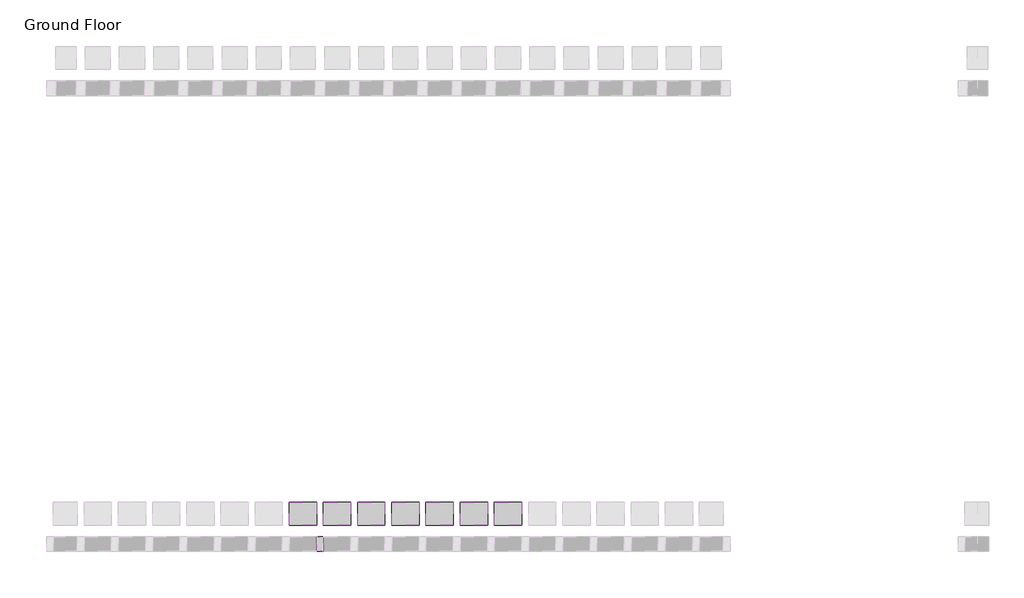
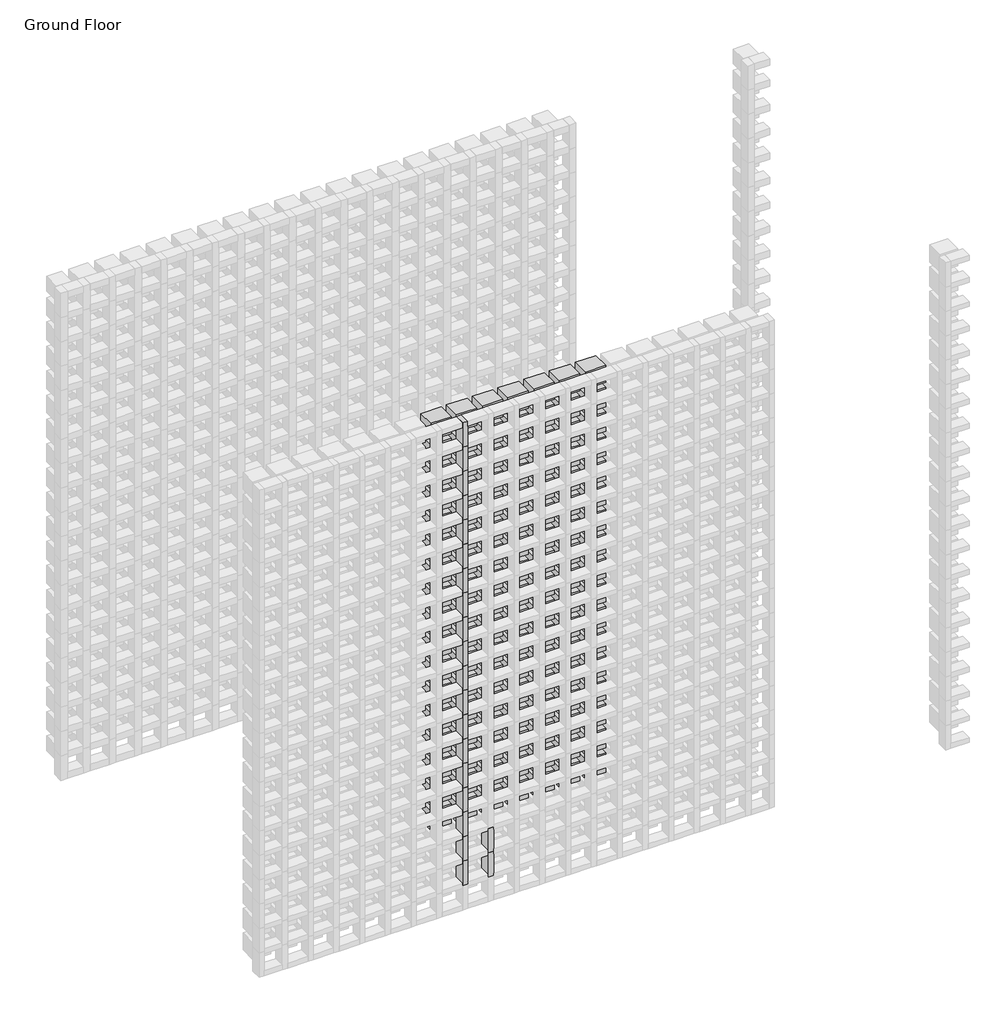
# One storey, part 77 of 350: 119 plates, 21 members.
"""IFC4 building model written with IfcOpenShell, lengths in millimetres."""

from ifc_helpers import new_model, si_unit, origin, place, context, project, spatial, transform, mapped, element, save
from components import rectangular_mullion_5b501421, empty_system_panel_empty_a57e421f, empty_system_panel_empty_fe50b430

model = new_model("IFC4")

# Units and contexts
model_context = context("Model", 3, world=origin())
ifc_project = project(units=[si_unit("LENGTHUNIT", "METRE", prefix="MILLI")], contexts=[model_context])

# Site, building, storey
site = spatial("IfcSite", under=ifc_project)
building = spatial("IfcBuilding", under=site)
storey = spatial("IfcBuildingStorey", under=building, Name="Ground Floor", Elevation=0.0)

# Members
placement = place(None, origin())
rectangular_mullion_shape = rectangular_mullion_5b501421(model_context)
element("IfcMember", 1, ObjectType="Rectangular Mullion : Batten_Timber_Modinex_Austratus_Grid_Fascia_30x65_Ironbark", at=placement, inside=storey, context=model_context, shape_type="MappedRepresentation", body=[
    mapped(rectangular_mullion_shape, transform((15116.4361642, 38968.2978302, 150.0), x_axis=(1.0, 0.0, 0.0), y_axis=(0.0, -1.0, 0.0), z_axis=(0.0, 0.0, -1.0))),
])
element("IfcMember", 2, ObjectType="Rectangular Mullion : Batten_Timber_Modinex_Austratus_Grid_Fascia_30x65_Ironbark", at=placement, inside=storey, context=model_context, shape_type="MappedRepresentation", body=[
    mapped(rectangular_mullion_shape, transform((15116.4361642, 38968.2978302, 300.0), x_axis=(1.0, 0.0, 0.0), y_axis=(0.0, -1.0, 0.0), z_axis=(0.0, 0.0, -1.0))),
])
element("IfcMember", 3, ObjectType="Rectangular Mullion : Batten_Timber_Modinex_Austratus_Grid_Fascia_30x65_Ironbark", at=placement, inside=storey, context=model_context, shape_type="MappedRepresentation", body=[
    mapped(rectangular_mullion_shape, transform((15116.4361642, 38968.2978302, 450.0), x_axis=(1.0, 0.0, 0.0), y_axis=(0.0, -1.0, 0.0), z_axis=(0.0, 0.0, -1.0))),
])
element("IfcMember", 4, ObjectType="Rectangular Mullion : Batten_Timber_Modinex_Austratus_Grid_Fascia_30x65_Ironbark", at=placement, inside=storey, context=model_context, shape_type="MappedRepresentation", body=[
    mapped(rectangular_mullion_shape, transform((15116.4361642, 38968.2978302, 600.0), x_axis=(1.0, 0.0, 0.0), y_axis=(0.0, -1.0, 0.0), z_axis=(0.0, 0.0, -1.0))),
])
element("IfcMember", 5, ObjectType="Rectangular Mullion : Batten_Timber_Modinex_Austratus_Grid_Fascia_30x65_Ironbark", at=placement, inside=storey, context=model_context, shape_type="MappedRepresentation", body=[
    mapped(rectangular_mullion_shape, transform((15116.4361642, 38968.2978302, 750.0), x_axis=(1.0, 0.0, 0.0), y_axis=(0.0, -1.0, 0.0), z_axis=(0.0, 0.0, -1.0))),
])
element("IfcMember", 6, ObjectType="Rectangular Mullion : Batten_Timber_Modinex_Austratus_Grid_Fascia_30x65_Ironbark", at=placement, inside=storey, context=model_context, shape_type="MappedRepresentation", body=[
    mapped(rectangular_mullion_shape, transform((15116.4361642, 38968.2978302, 900.0), x_axis=(1.0, 0.0, 0.0), y_axis=(0.0, -1.0, 0.0), z_axis=(0.0, 0.0, -1.0))),
])
element("IfcMember", 7, ObjectType="Rectangular Mullion : Batten_Timber_Modinex_Austratus_Grid_Fascia_30x65_Ironbark", at=placement, inside=storey, context=model_context, shape_type="MappedRepresentation", body=[
    mapped(rectangular_mullion_shape, transform((15116.4361642, 38968.2978302, 1050.0), x_axis=(1.0, 0.0, 0.0), y_axis=(0.0, -1.0, 0.0), z_axis=(0.0, 0.0, -1.0))),
])
element("IfcMember", 8, ObjectType="Rectangular Mullion : Batten_Timber_Modinex_Austratus_Grid_Fascia_30x65_Ironbark", at=placement, inside=storey, context=model_context, shape_type="MappedRepresentation", body=[
    mapped(rectangular_mullion_shape, transform((15116.4361642, 38968.2978302, 1200.0), x_axis=(1.0, 0.0, 0.0), y_axis=(0.0, -1.0, 0.0), z_axis=(0.0, 0.0, -1.0))),
])
element("IfcMember", 9, ObjectType="Rectangular Mullion : Batten_Timber_Modinex_Austratus_Grid_Fascia_30x65_Ironbark", at=placement, inside=storey, context=model_context, shape_type="MappedRepresentation", body=[
    mapped(rectangular_mullion_shape, transform((15116.4361642, 38968.2978302, 1350.0), x_axis=(1.0, 0.0, 0.0), y_axis=(0.0, -1.0, 0.0), z_axis=(0.0, 0.0, -1.0))),
])
element("IfcMember", 10, ObjectType="Rectangular Mullion : Batten_Timber_Modinex_Austratus_Grid_Fascia_30x65_Ironbark", at=placement, inside=storey, context=model_context, shape_type="MappedRepresentation", body=[
    mapped(rectangular_mullion_shape, transform((15116.4361642, 38968.2978302, 1500.0), x_axis=(1.0, 0.0, 0.0), y_axis=(0.0, -1.0, 0.0), z_axis=(0.0, 0.0, -1.0))),
])
element("IfcMember", 11, ObjectType="Rectangular Mullion : Batten_Timber_Modinex_Austratus_Grid_Fascia_30x65_Ironbark", at=placement, inside=storey, context=model_context, shape_type="MappedRepresentation", body=[
    mapped(rectangular_mullion_shape, transform((15116.4361642, 38968.2978302, 1650.0), x_axis=(1.0, 0.0, 0.0), y_axis=(0.0, -1.0, 0.0), z_axis=(0.0, 0.0, -1.0))),
])
element("IfcMember", 12, ObjectType="Rectangular Mullion : Batten_Timber_Modinex_Austratus_Grid_Fascia_30x65_Ironbark", at=placement, inside=storey, context=model_context, shape_type="MappedRepresentation", body=[
    mapped(rectangular_mullion_shape, transform((15116.4361642, 38968.2978302, 1800.0), x_axis=(1.0, 0.0, 0.0), y_axis=(0.0, -1.0, 0.0), z_axis=(0.0, 0.0, -1.0))),
])
element("IfcMember", 13, ObjectType="Rectangular Mullion : Batten_Timber_Modinex_Austratus_Grid_Fascia_30x65_Ironbark", at=placement, inside=storey, context=model_context, shape_type="MappedRepresentation", body=[
    mapped(rectangular_mullion_shape, transform((15116.4361642, 38968.2978302, 1950.0), x_axis=(1.0, 0.0, 0.0), y_axis=(0.0, -1.0, 0.0), z_axis=(0.0, 0.0, -1.0))),
])
element("IfcMember", 14, ObjectType="Rectangular Mullion : Batten_Timber_Modinex_Austratus_Grid_Fascia_30x65_Ironbark", at=placement, inside=storey, context=model_context, shape_type="MappedRepresentation", body=[
    mapped(rectangular_mullion_shape, transform((15116.4361642, 38968.2978302, 2100.0), x_axis=(1.0, 0.0, 0.0), y_axis=(0.0, -1.0, 0.0), z_axis=(0.0, 0.0, -1.0))),
])
element("IfcMember", 15, ObjectType="Rectangular Mullion : Batten_Timber_Modinex_Austratus_Grid_Fascia_30x65_Ironbark", at=placement, inside=storey, context=model_context, shape_type="MappedRepresentation", body=[
    mapped(rectangular_mullion_shape, transform((15116.4361642, 38968.2978302, 2250.0), x_axis=(1.0, 0.0, 0.0), y_axis=(0.0, -1.0, 0.0), z_axis=(0.0, 0.0, -1.0))),
])
element("IfcMember", 16, ObjectType="Rectangular Mullion : Batten_Timber_Modinex_Austratus_Grid_Fascia_30x65_Ironbark", at=placement, inside=storey, context=model_context, shape_type="MappedRepresentation", body=[
    mapped(rectangular_mullion_shape, transform((15116.4361642, 38968.2978302, 2400.0), x_axis=(1.0, 0.0, 0.0), y_axis=(0.0, -1.0, 0.0), z_axis=(0.0, 0.0, -1.0))),
])
element("IfcMember", 17, ObjectType="Rectangular Mullion : Batten_Timber_Modinex_Austratus_Grid_Fascia_30x65_Ironbark", at=placement, inside=storey, context=model_context, shape_type="MappedRepresentation", body=[
    mapped(rectangular_mullion_shape, transform((15116.4361642, 38968.2978302, 2550.0), x_axis=(1.0, 0.0, 0.0), y_axis=(0.0, -1.0, 0.0), z_axis=(0.0, 0.0, -1.0))),
])
element("IfcMember", 18, ObjectType="Rectangular Mullion : Batten_Timber_Modinex_Austratus_Grid_Fascia_30x65_Ironbark", at=placement, inside=storey, context=model_context, shape_type="MappedRepresentation", body=[
    mapped(rectangular_mullion_shape, transform((15116.4361642, 38968.2978302, 2700.0), x_axis=(1.0, 0.0, 0.0), y_axis=(0.0, -1.0, 0.0), z_axis=(0.0, 0.0, -1.0))),
])
element("IfcMember", 19, ObjectType="Rectangular Mullion : Batten_Timber_Modinex_Austratus_Grid_Fascia_30x65_Ironbark", at=placement, inside=storey, context=model_context, shape_type="MappedRepresentation", body=[
    mapped(rectangular_mullion_shape, transform((15266.4361642, 38968.2978302, 150.0), x_axis=(1.0, 0.0, 0.0), y_axis=(0.0, -1.0, 0.0), z_axis=(0.0, 0.0, -1.0))),
])
element("IfcMember", 20, ObjectType="Rectangular Mullion : Batten_Timber_Modinex_Austratus_Grid_Fascia_30x65_Ironbark", at=placement, inside=storey, context=model_context, shape_type="MappedRepresentation", body=[
    mapped(rectangular_mullion_shape, transform((15266.4361642, 38968.2978302, 300.0), x_axis=(1.0, 0.0, 0.0), y_axis=(0.0, -1.0, 0.0), z_axis=(0.0, 0.0, -1.0))),
])
element("IfcMember", 21, ObjectType="Rectangular Mullion : Batten_Timber_Modinex_Austratus_Grid_Fascia_30x65_Ironbark", at=placement, inside=storey, context=model_context, shape_type="MappedRepresentation", body=[
    mapped(rectangular_mullion_shape, transform((15116.4361642, 38968.2978302, 2850.0), x_axis=(1.0, 0.0, 0.0), y_axis=(0.0, -1.0, 0.0), z_axis=(0.0, 0.0, -1.0))),
])

# Plates
empty_system_panel_empty_shape = empty_system_panel_empty_a57e421f(model_context)
element("IfcPlate", 22, ObjectType="Empty System Panel : Empty", at=placement, inside=storey, context=model_context, shape_type="MappedRepresentation", body=[
    mapped(empty_system_panel_empty_shape, transform((15041.4361642, 38968.2978302, 465.0), x_axis=(1.0, 0.0, 0.0), y_axis=(0.0, 1.0, 0.0), z_axis=(0.0, 0.0, 1.0))),
])
element("IfcPlate", 23, ObjectType="Empty System Panel : Empty", at=placement, inside=storey, context=model_context, shape_type="MappedRepresentation", body=[
    mapped(empty_system_panel_empty_shape, transform((15191.4361642, 38968.2978302, 465.0), x_axis=(1.0, 0.0, 0.0), y_axis=(0.0, 1.0, 0.0), z_axis=(0.0, 0.0, 1.0))),
])
element("IfcPlate", 24, ObjectType="Empty System Panel : Empty", at=placement, inside=storey, context=model_context, shape_type="MappedRepresentation", body=[
    mapped(empty_system_panel_empty_shape, transform((15341.4361642, 38968.2978302, 465.0), x_axis=(1.0, 0.0, 0.0), y_axis=(0.0, 1.0, 0.0), z_axis=(0.0, 0.0, 1.0))),
])
element("IfcPlate", 25, ObjectType="Empty System Panel : Empty", at=placement, inside=storey, context=model_context, shape_type="MappedRepresentation", body=[
    mapped(empty_system_panel_empty_shape, transform((15491.4361642, 38968.2978302, 465.0), x_axis=(1.0, 0.0, 0.0), y_axis=(0.0, 1.0, 0.0), z_axis=(0.0, 0.0, 1.0))),
])
element("IfcPlate", 26, ObjectType="Empty System Panel : Empty", at=placement, inside=storey, context=model_context, shape_type="MappedRepresentation", body=[
    mapped(empty_system_panel_empty_shape, transform((15641.4361642, 38968.2978302, 465.0), x_axis=(1.0, 0.0, 0.0), y_axis=(0.0, 1.0, 0.0), z_axis=(0.0, 0.0, 1.0))),
])
element("IfcPlate", 27, ObjectType="Empty System Panel : Empty", at=placement, inside=storey, context=model_context, shape_type="MappedRepresentation", body=[
    mapped(empty_system_panel_empty_shape, transform((15791.4361642, 38968.2978302, 465.0), x_axis=(1.0, 0.0, 0.0), y_axis=(0.0, 1.0, 0.0), z_axis=(0.0, 0.0, 1.0))),
])
element("IfcPlate", 28, ObjectType="Empty System Panel : Empty", at=placement, inside=storey, context=model_context, shape_type="MappedRepresentation", body=[
    mapped(empty_system_panel_empty_shape, transform((15941.4361642, 38968.2978302, 465.0), x_axis=(1.0, 0.0, 0.0), y_axis=(0.0, 1.0, 0.0), z_axis=(0.0, 0.0, 1.0))),
])
element("IfcPlate", 29, ObjectType="Empty System Panel : Empty", at=placement, inside=storey, context=model_context, shape_type="MappedRepresentation", body=[
    mapped(empty_system_panel_empty_shape, transform((15041.4361642, 38968.2978302, 615.0), x_axis=(1.0, 0.0, 0.0), y_axis=(0.0, 1.0, 0.0), z_axis=(0.0, 0.0, 1.0))),
])
element("IfcPlate", 30, ObjectType="Empty System Panel : Empty", at=placement, inside=storey, context=model_context, shape_type="MappedRepresentation", body=[
    mapped(empty_system_panel_empty_shape, transform((15191.4361642, 38968.2978302, 615.0), x_axis=(1.0, 0.0, 0.0), y_axis=(0.0, 1.0, 0.0), z_axis=(0.0, 0.0, 1.0))),
])
element("IfcPlate", 31, ObjectType="Empty System Panel : Empty", at=placement, inside=storey, context=model_context, shape_type="MappedRepresentation", body=[
    mapped(empty_system_panel_empty_shape, transform((15341.4361642, 38968.2978302, 615.0), x_axis=(1.0, 0.0, 0.0), y_axis=(0.0, 1.0, 0.0), z_axis=(0.0, 0.0, 1.0))),
])
element("IfcPlate", 32, ObjectType="Empty System Panel : Empty", at=placement, inside=storey, context=model_context, shape_type="MappedRepresentation", body=[
    mapped(empty_system_panel_empty_shape, transform((15491.4361642, 38968.2978302, 615.0), x_axis=(1.0, 0.0, 0.0), y_axis=(0.0, 1.0, 0.0), z_axis=(0.0, 0.0, 1.0))),
])
element("IfcPlate", 33, ObjectType="Empty System Panel : Empty", at=placement, inside=storey, context=model_context, shape_type="MappedRepresentation", body=[
    mapped(empty_system_panel_empty_shape, transform((15641.4361642, 38968.2978302, 615.0), x_axis=(1.0, 0.0, 0.0), y_axis=(0.0, 1.0, 0.0), z_axis=(0.0, 0.0, 1.0))),
])
element("IfcPlate", 34, ObjectType="Empty System Panel : Empty", at=placement, inside=storey, context=model_context, shape_type="MappedRepresentation", body=[
    mapped(empty_system_panel_empty_shape, transform((15791.4361642, 38968.2978302, 615.0), x_axis=(1.0, 0.0, 0.0), y_axis=(0.0, 1.0, 0.0), z_axis=(0.0, 0.0, 1.0))),
])
element("IfcPlate", 35, ObjectType="Empty System Panel : Empty", at=placement, inside=storey, context=model_context, shape_type="MappedRepresentation", body=[
    mapped(empty_system_panel_empty_shape, transform((15941.4361642, 38968.2978302, 615.0), x_axis=(1.0, 0.0, 0.0), y_axis=(0.0, 1.0, 0.0), z_axis=(0.0, 0.0, 1.0))),
])
element("IfcPlate", 36, ObjectType="Empty System Panel : Empty", at=placement, inside=storey, context=model_context, shape_type="MappedRepresentation", body=[
    mapped(empty_system_panel_empty_shape, transform((15041.4361642, 38968.2978302, 765.0), x_axis=(1.0, 0.0, 0.0), y_axis=(0.0, 1.0, 0.0), z_axis=(0.0, 0.0, 1.0))),
])
element("IfcPlate", 37, ObjectType="Empty System Panel : Empty", at=placement, inside=storey, context=model_context, shape_type="MappedRepresentation", body=[
    mapped(empty_system_panel_empty_shape, transform((15191.4361642, 38968.2978302, 765.0), x_axis=(1.0, 0.0, 0.0), y_axis=(0.0, 1.0, 0.0), z_axis=(0.0, 0.0, 1.0))),
])
element("IfcPlate", 38, ObjectType="Empty System Panel : Empty", at=placement, inside=storey, context=model_context, shape_type="MappedRepresentation", body=[
    mapped(empty_system_panel_empty_shape, transform((15341.4361642, 38968.2978302, 765.0), x_axis=(1.0, 0.0, 0.0), y_axis=(0.0, 1.0, 0.0), z_axis=(0.0, 0.0, 1.0))),
])
element("IfcPlate", 39, ObjectType="Empty System Panel : Empty", at=placement, inside=storey, context=model_context, shape_type="MappedRepresentation", body=[
    mapped(empty_system_panel_empty_shape, transform((15491.4361642, 38968.2978302, 765.0), x_axis=(1.0, 0.0, 0.0), y_axis=(0.0, 1.0, 0.0), z_axis=(0.0, 0.0, 1.0))),
])
element("IfcPlate", 40, ObjectType="Empty System Panel : Empty", at=placement, inside=storey, context=model_context, shape_type="MappedRepresentation", body=[
    mapped(empty_system_panel_empty_shape, transform((15641.4361642, 38968.2978302, 765.0), x_axis=(1.0, 0.0, 0.0), y_axis=(0.0, 1.0, 0.0), z_axis=(0.0, 0.0, 1.0))),
])
element("IfcPlate", 41, ObjectType="Empty System Panel : Empty", at=placement, inside=storey, context=model_context, shape_type="MappedRepresentation", body=[
    mapped(empty_system_panel_empty_shape, transform((15791.4361642, 38968.2978302, 765.0), x_axis=(1.0, 0.0, 0.0), y_axis=(0.0, 1.0, 0.0), z_axis=(0.0, 0.0, 1.0))),
])
element("IfcPlate", 42, ObjectType="Empty System Panel : Empty", at=placement, inside=storey, context=model_context, shape_type="MappedRepresentation", body=[
    mapped(empty_system_panel_empty_shape, transform((15941.4361642, 38968.2978302, 765.0), x_axis=(1.0, 0.0, 0.0), y_axis=(0.0, 1.0, 0.0), z_axis=(0.0, 0.0, 1.0))),
])
element("IfcPlate", 43, ObjectType="Empty System Panel : Empty", at=placement, inside=storey, context=model_context, shape_type="MappedRepresentation", body=[
    mapped(empty_system_panel_empty_shape, transform((15041.4361642, 38968.2978302, 915.0), x_axis=(1.0, 0.0, 0.0), y_axis=(0.0, 1.0, 0.0), z_axis=(0.0, 0.0, 1.0))),
])
element("IfcPlate", 44, ObjectType="Empty System Panel : Empty", at=placement, inside=storey, context=model_context, shape_type="MappedRepresentation", body=[
    mapped(empty_system_panel_empty_shape, transform((15191.4361642, 38968.2978302, 915.0), x_axis=(1.0, 0.0, 0.0), y_axis=(0.0, 1.0, 0.0), z_axis=(0.0, 0.0, 1.0))),
])
element("IfcPlate", 45, ObjectType="Empty System Panel : Empty", at=placement, inside=storey, context=model_context, shape_type="MappedRepresentation", body=[
    mapped(empty_system_panel_empty_shape, transform((15341.4361642, 38968.2978302, 915.0), x_axis=(1.0, 0.0, 0.0), y_axis=(0.0, 1.0, 0.0), z_axis=(0.0, 0.0, 1.0))),
])
element("IfcPlate", 46, ObjectType="Empty System Panel : Empty", at=placement, inside=storey, context=model_context, shape_type="MappedRepresentation", body=[
    mapped(empty_system_panel_empty_shape, transform((15491.4361642, 38968.2978302, 915.0), x_axis=(1.0, 0.0, 0.0), y_axis=(0.0, 1.0, 0.0), z_axis=(0.0, 0.0, 1.0))),
])
element("IfcPlate", 47, ObjectType="Empty System Panel : Empty", at=placement, inside=storey, context=model_context, shape_type="MappedRepresentation", body=[
    mapped(empty_system_panel_empty_shape, transform((15641.4361642, 38968.2978302, 915.0), x_axis=(1.0, 0.0, 0.0), y_axis=(0.0, 1.0, 0.0), z_axis=(0.0, 0.0, 1.0))),
])
element("IfcPlate", 48, ObjectType="Empty System Panel : Empty", at=placement, inside=storey, context=model_context, shape_type="MappedRepresentation", body=[
    mapped(empty_system_panel_empty_shape, transform((15791.4361642, 38968.2978302, 915.0), x_axis=(1.0, 0.0, 0.0), y_axis=(0.0, 1.0, 0.0), z_axis=(0.0, 0.0, 1.0))),
])
element("IfcPlate", 49, ObjectType="Empty System Panel : Empty", at=placement, inside=storey, context=model_context, shape_type="MappedRepresentation", body=[
    mapped(empty_system_panel_empty_shape, transform((15941.4361642, 38968.2978302, 915.0), x_axis=(1.0, 0.0, 0.0), y_axis=(0.0, 1.0, 0.0), z_axis=(0.0, 0.0, 1.0))),
])
element("IfcPlate", 50, ObjectType="Empty System Panel : Empty", at=placement, inside=storey, context=model_context, shape_type="MappedRepresentation", body=[
    mapped(empty_system_panel_empty_shape, transform((15041.4361642, 38968.2978302, 1065.0), x_axis=(1.0, 0.0, 0.0), y_axis=(0.0, 1.0, 0.0), z_axis=(0.0, 0.0, 1.0))),
])
element("IfcPlate", 51, ObjectType="Empty System Panel : Empty", at=placement, inside=storey, context=model_context, shape_type="MappedRepresentation", body=[
    mapped(empty_system_panel_empty_shape, transform((15191.4361642, 38968.2978302, 1065.0), x_axis=(1.0, 0.0, 0.0), y_axis=(0.0, 1.0, 0.0), z_axis=(0.0, 0.0, 1.0))),
])
element("IfcPlate", 52, ObjectType="Empty System Panel : Empty", at=placement, inside=storey, context=model_context, shape_type="MappedRepresentation", body=[
    mapped(empty_system_panel_empty_shape, transform((15341.4361642, 38968.2978302, 1065.0), x_axis=(1.0, 0.0, 0.0), y_axis=(0.0, 1.0, 0.0), z_axis=(0.0, 0.0, 1.0))),
])
element("IfcPlate", 53, ObjectType="Empty System Panel : Empty", at=placement, inside=storey, context=model_context, shape_type="MappedRepresentation", body=[
    mapped(empty_system_panel_empty_shape, transform((15491.4361642, 38968.2978302, 1065.0), x_axis=(1.0, 0.0, 0.0), y_axis=(0.0, 1.0, 0.0), z_axis=(0.0, 0.0, 1.0))),
])
element("IfcPlate", 54, ObjectType="Empty System Panel : Empty", at=placement, inside=storey, context=model_context, shape_type="MappedRepresentation", body=[
    mapped(empty_system_panel_empty_shape, transform((15641.4361642, 38968.2978302, 1065.0), x_axis=(1.0, 0.0, 0.0), y_axis=(0.0, 1.0, 0.0), z_axis=(0.0, 0.0, 1.0))),
])
element("IfcPlate", 55, ObjectType="Empty System Panel : Empty", at=placement, inside=storey, context=model_context, shape_type="MappedRepresentation", body=[
    mapped(empty_system_panel_empty_shape, transform((15791.4361642, 38968.2978302, 1065.0), x_axis=(1.0, 0.0, 0.0), y_axis=(0.0, 1.0, 0.0), z_axis=(0.0, 0.0, 1.0))),
])
element("IfcPlate", 56, ObjectType="Empty System Panel : Empty", at=placement, inside=storey, context=model_context, shape_type="MappedRepresentation", body=[
    mapped(empty_system_panel_empty_shape, transform((15941.4361642, 38968.2978302, 1065.0), x_axis=(1.0, 0.0, 0.0), y_axis=(0.0, 1.0, 0.0), z_axis=(0.0, 0.0, 1.0))),
])
element("IfcPlate", 57, ObjectType="Empty System Panel : Empty", at=placement, inside=storey, context=model_context, shape_type="MappedRepresentation", body=[
    mapped(empty_system_panel_empty_shape, transform((15041.4361642, 38968.2978302, 1215.0), x_axis=(1.0, 0.0, 0.0), y_axis=(0.0, 1.0, 0.0), z_axis=(0.0, 0.0, 1.0))),
])
element("IfcPlate", 58, ObjectType="Empty System Panel : Empty", at=placement, inside=storey, context=model_context, shape_type="MappedRepresentation", body=[
    mapped(empty_system_panel_empty_shape, transform((15191.4361642, 38968.2978302, 1215.0), x_axis=(1.0, 0.0, 0.0), y_axis=(0.0, 1.0, 0.0), z_axis=(0.0, 0.0, 1.0))),
])
element("IfcPlate", 59, ObjectType="Empty System Panel : Empty", at=placement, inside=storey, context=model_context, shape_type="MappedRepresentation", body=[
    mapped(empty_system_panel_empty_shape, transform((15341.4361642, 38968.2978302, 1215.0), x_axis=(1.0, 0.0, 0.0), y_axis=(0.0, 1.0, 0.0), z_axis=(0.0, 0.0, 1.0))),
])
element("IfcPlate", 60, ObjectType="Empty System Panel : Empty", at=placement, inside=storey, context=model_context, shape_type="MappedRepresentation", body=[
    mapped(empty_system_panel_empty_shape, transform((15491.4361642, 38968.2978302, 1215.0), x_axis=(1.0, 0.0, 0.0), y_axis=(0.0, 1.0, 0.0), z_axis=(0.0, 0.0, 1.0))),
])
element("IfcPlate", 61, ObjectType="Empty System Panel : Empty", at=placement, inside=storey, context=model_context, shape_type="MappedRepresentation", body=[
    mapped(empty_system_panel_empty_shape, transform((15641.4361642, 38968.2978302, 1215.0), x_axis=(1.0, 0.0, 0.0), y_axis=(0.0, 1.0, 0.0), z_axis=(0.0, 0.0, 1.0))),
])
element("IfcPlate", 62, ObjectType="Empty System Panel : Empty", at=placement, inside=storey, context=model_context, shape_type="MappedRepresentation", body=[
    mapped(empty_system_panel_empty_shape, transform((15791.4361642, 38968.2978302, 1215.0), x_axis=(1.0, 0.0, 0.0), y_axis=(0.0, 1.0, 0.0), z_axis=(0.0, 0.0, 1.0))),
])
element("IfcPlate", 63, ObjectType="Empty System Panel : Empty", at=placement, inside=storey, context=model_context, shape_type="MappedRepresentation", body=[
    mapped(empty_system_panel_empty_shape, transform((15941.4361642, 38968.2978302, 1215.0), x_axis=(1.0, 0.0, 0.0), y_axis=(0.0, 1.0, 0.0), z_axis=(0.0, 0.0, 1.0))),
])
element("IfcPlate", 64, ObjectType="Empty System Panel : Empty", at=placement, inside=storey, context=model_context, shape_type="MappedRepresentation", body=[
    mapped(empty_system_panel_empty_shape, transform((15041.4361642, 38968.2978302, 1365.0), x_axis=(1.0, 0.0, 0.0), y_axis=(0.0, 1.0, 0.0), z_axis=(0.0, 0.0, 1.0))),
])
element("IfcPlate", 65, ObjectType="Empty System Panel : Empty", at=placement, inside=storey, context=model_context, shape_type="MappedRepresentation", body=[
    mapped(empty_system_panel_empty_shape, transform((15191.4361642, 38968.2978302, 1365.0), x_axis=(1.0, 0.0, 0.0), y_axis=(0.0, 1.0, 0.0), z_axis=(0.0, 0.0, 1.0))),
])
element("IfcPlate", 66, ObjectType="Empty System Panel : Empty", at=placement, inside=storey, context=model_context, shape_type="MappedRepresentation", body=[
    mapped(empty_system_panel_empty_shape, transform((15341.4361642, 38968.2978302, 1365.0), x_axis=(1.0, 0.0, 0.0), y_axis=(0.0, 1.0, 0.0), z_axis=(0.0, 0.0, 1.0))),
])
element("IfcPlate", 67, ObjectType="Empty System Panel : Empty", at=placement, inside=storey, context=model_context, shape_type="MappedRepresentation", body=[
    mapped(empty_system_panel_empty_shape, transform((15491.4361642, 38968.2978302, 1365.0), x_axis=(1.0, 0.0, 0.0), y_axis=(0.0, 1.0, 0.0), z_axis=(0.0, 0.0, 1.0))),
])
element("IfcPlate", 68, ObjectType="Empty System Panel : Empty", at=placement, inside=storey, context=model_context, shape_type="MappedRepresentation", body=[
    mapped(empty_system_panel_empty_shape, transform((15641.4361642, 38968.2978302, 1365.0), x_axis=(1.0, 0.0, 0.0), y_axis=(0.0, 1.0, 0.0), z_axis=(0.0, 0.0, 1.0))),
])
element("IfcPlate", 69, ObjectType="Empty System Panel : Empty", at=placement, inside=storey, context=model_context, shape_type="MappedRepresentation", body=[
    mapped(empty_system_panel_empty_shape, transform((15791.4361642, 38968.2978302, 1365.0), x_axis=(1.0, 0.0, 0.0), y_axis=(0.0, 1.0, 0.0), z_axis=(0.0, 0.0, 1.0))),
])
element("IfcPlate", 70, ObjectType="Empty System Panel : Empty", at=placement, inside=storey, context=model_context, shape_type="MappedRepresentation", body=[
    mapped(empty_system_panel_empty_shape, transform((15941.4361642, 38968.2978302, 1365.0), x_axis=(1.0, 0.0, 0.0), y_axis=(0.0, 1.0, 0.0), z_axis=(0.0, 0.0, 1.0))),
])
element("IfcPlate", 71, ObjectType="Empty System Panel : Empty", at=placement, inside=storey, context=model_context, shape_type="MappedRepresentation", body=[
    mapped(empty_system_panel_empty_shape, transform((15041.4361642, 38968.2978302, 1515.0), x_axis=(1.0, 0.0, 0.0), y_axis=(0.0, 1.0, 0.0), z_axis=(0.0, 0.0, 1.0))),
])
element("IfcPlate", 72, ObjectType="Empty System Panel : Empty", at=placement, inside=storey, context=model_context, shape_type="MappedRepresentation", body=[
    mapped(empty_system_panel_empty_shape, transform((15191.4361642, 38968.2978302, 1515.0), x_axis=(1.0, 0.0, 0.0), y_axis=(0.0, 1.0, 0.0), z_axis=(0.0, 0.0, 1.0))),
])
element("IfcPlate", 73, ObjectType="Empty System Panel : Empty", at=placement, inside=storey, context=model_context, shape_type="MappedRepresentation", body=[
    mapped(empty_system_panel_empty_shape, transform((15341.4361642, 38968.2978302, 1515.0), x_axis=(1.0, 0.0, 0.0), y_axis=(0.0, 1.0, 0.0), z_axis=(0.0, 0.0, 1.0))),
])
element("IfcPlate", 74, ObjectType="Empty System Panel : Empty", at=placement, inside=storey, context=model_context, shape_type="MappedRepresentation", body=[
    mapped(empty_system_panel_empty_shape, transform((15491.4361642, 38968.2978302, 1515.0), x_axis=(1.0, 0.0, 0.0), y_axis=(0.0, 1.0, 0.0), z_axis=(0.0, 0.0, 1.0))),
])
element("IfcPlate", 75, ObjectType="Empty System Panel : Empty", at=placement, inside=storey, context=model_context, shape_type="MappedRepresentation", body=[
    mapped(empty_system_panel_empty_shape, transform((15641.4361642, 38968.2978302, 1515.0), x_axis=(1.0, 0.0, 0.0), y_axis=(0.0, 1.0, 0.0), z_axis=(0.0, 0.0, 1.0))),
])
element("IfcPlate", 76, ObjectType="Empty System Panel : Empty", at=placement, inside=storey, context=model_context, shape_type="MappedRepresentation", body=[
    mapped(empty_system_panel_empty_shape, transform((15791.4361642, 38968.2978302, 1515.0), x_axis=(1.0, 0.0, 0.0), y_axis=(0.0, 1.0, 0.0), z_axis=(0.0, 0.0, 1.0))),
])
element("IfcPlate", 77, ObjectType="Empty System Panel : Empty", at=placement, inside=storey, context=model_context, shape_type="MappedRepresentation", body=[
    mapped(empty_system_panel_empty_shape, transform((15941.4361642, 38968.2978302, 1515.0), x_axis=(1.0, 0.0, 0.0), y_axis=(0.0, 1.0, 0.0), z_axis=(0.0, 0.0, 1.0))),
])
element("IfcPlate", 78, ObjectType="Empty System Panel : Empty", at=placement, inside=storey, context=model_context, shape_type="MappedRepresentation", body=[
    mapped(empty_system_panel_empty_shape, transform((15041.4361642, 38968.2978302, 1665.0), x_axis=(1.0, 0.0, 0.0), y_axis=(0.0, 1.0, 0.0), z_axis=(0.0, 0.0, 1.0))),
])
element("IfcPlate", 79, ObjectType="Empty System Panel : Empty", at=placement, inside=storey, context=model_context, shape_type="MappedRepresentation", body=[
    mapped(empty_system_panel_empty_shape, transform((15191.4361642, 38968.2978302, 1665.0), x_axis=(1.0, 0.0, 0.0), y_axis=(0.0, 1.0, 0.0), z_axis=(0.0, 0.0, 1.0))),
])
element("IfcPlate", 80, ObjectType="Empty System Panel : Empty", at=placement, inside=storey, context=model_context, shape_type="MappedRepresentation", body=[
    mapped(empty_system_panel_empty_shape, transform((15341.4361642, 38968.2978302, 1665.0), x_axis=(1.0, 0.0, 0.0), y_axis=(0.0, 1.0, 0.0), z_axis=(0.0, 0.0, 1.0))),
])
element("IfcPlate", 81, ObjectType="Empty System Panel : Empty", at=placement, inside=storey, context=model_context, shape_type="MappedRepresentation", body=[
    mapped(empty_system_panel_empty_shape, transform((15491.4361642, 38968.2978302, 1665.0), x_axis=(1.0, 0.0, 0.0), y_axis=(0.0, 1.0, 0.0), z_axis=(0.0, 0.0, 1.0))),
])
element("IfcPlate", 82, ObjectType="Empty System Panel : Empty", at=placement, inside=storey, context=model_context, shape_type="MappedRepresentation", body=[
    mapped(empty_system_panel_empty_shape, transform((15641.4361642, 38968.2978302, 1665.0), x_axis=(1.0, 0.0, 0.0), y_axis=(0.0, 1.0, 0.0), z_axis=(0.0, 0.0, 1.0))),
])
element("IfcPlate", 83, ObjectType="Empty System Panel : Empty", at=placement, inside=storey, context=model_context, shape_type="MappedRepresentation", body=[
    mapped(empty_system_panel_empty_shape, transform((15791.4361642, 38968.2978302, 1665.0), x_axis=(1.0, 0.0, 0.0), y_axis=(0.0, 1.0, 0.0), z_axis=(0.0, 0.0, 1.0))),
])
element("IfcPlate", 84, ObjectType="Empty System Panel : Empty", at=placement, inside=storey, context=model_context, shape_type="MappedRepresentation", body=[
    mapped(empty_system_panel_empty_shape, transform((15941.4361642, 38968.2978302, 1665.0), x_axis=(1.0, 0.0, 0.0), y_axis=(0.0, 1.0, 0.0), z_axis=(0.0, 0.0, 1.0))),
])
element("IfcPlate", 85, ObjectType="Empty System Panel : Empty", at=placement, inside=storey, context=model_context, shape_type="MappedRepresentation", body=[
    mapped(empty_system_panel_empty_shape, transform((15041.4361642, 38968.2978302, 1815.0), x_axis=(1.0, 0.0, 0.0), y_axis=(0.0, 1.0, 0.0), z_axis=(0.0, 0.0, 1.0))),
])
element("IfcPlate", 86, ObjectType="Empty System Panel : Empty", at=placement, inside=storey, context=model_context, shape_type="MappedRepresentation", body=[
    mapped(empty_system_panel_empty_shape, transform((15191.4361642, 38968.2978302, 1815.0), x_axis=(1.0, 0.0, 0.0), y_axis=(0.0, 1.0, 0.0), z_axis=(0.0, 0.0, 1.0))),
])
element("IfcPlate", 87, ObjectType="Empty System Panel : Empty", at=placement, inside=storey, context=model_context, shape_type="MappedRepresentation", body=[
    mapped(empty_system_panel_empty_shape, transform((15341.4361642, 38968.2978302, 1815.0), x_axis=(1.0, 0.0, 0.0), y_axis=(0.0, 1.0, 0.0), z_axis=(0.0, 0.0, 1.0))),
])
element("IfcPlate", 88, ObjectType="Empty System Panel : Empty", at=placement, inside=storey, context=model_context, shape_type="MappedRepresentation", body=[
    mapped(empty_system_panel_empty_shape, transform((15491.4361642, 38968.2978302, 1815.0), x_axis=(1.0, 0.0, 0.0), y_axis=(0.0, 1.0, 0.0), z_axis=(0.0, 0.0, 1.0))),
])
element("IfcPlate", 89, ObjectType="Empty System Panel : Empty", at=placement, inside=storey, context=model_context, shape_type="MappedRepresentation", body=[
    mapped(empty_system_panel_empty_shape, transform((15641.4361642, 38968.2978302, 1815.0), x_axis=(1.0, 0.0, 0.0), y_axis=(0.0, 1.0, 0.0), z_axis=(0.0, 0.0, 1.0))),
])
element("IfcPlate", 90, ObjectType="Empty System Panel : Empty", at=placement, inside=storey, context=model_context, shape_type="MappedRepresentation", body=[
    mapped(empty_system_panel_empty_shape, transform((15791.4361642, 38968.2978302, 1815.0), x_axis=(1.0, 0.0, 0.0), y_axis=(0.0, 1.0, 0.0), z_axis=(0.0, 0.0, 1.0))),
])
element("IfcPlate", 91, ObjectType="Empty System Panel : Empty", at=placement, inside=storey, context=model_context, shape_type="MappedRepresentation", body=[
    mapped(empty_system_panel_empty_shape, transform((15941.4361642, 38968.2978302, 1815.0), x_axis=(1.0, 0.0, 0.0), y_axis=(0.0, 1.0, 0.0), z_axis=(0.0, 0.0, 1.0))),
])
element("IfcPlate", 92, ObjectType="Empty System Panel : Empty", at=placement, inside=storey, context=model_context, shape_type="MappedRepresentation", body=[
    mapped(empty_system_panel_empty_shape, transform((15041.4361642, 38968.2978302, 1965.0), x_axis=(1.0, 0.0, 0.0), y_axis=(0.0, 1.0, 0.0), z_axis=(0.0, 0.0, 1.0))),
])
element("IfcPlate", 93, ObjectType="Empty System Panel : Empty", at=placement, inside=storey, context=model_context, shape_type="MappedRepresentation", body=[
    mapped(empty_system_panel_empty_shape, transform((15191.4361642, 38968.2978302, 1965.0), x_axis=(1.0, 0.0, 0.0), y_axis=(0.0, 1.0, 0.0), z_axis=(0.0, 0.0, 1.0))),
])
element("IfcPlate", 94, ObjectType="Empty System Panel : Empty", at=placement, inside=storey, context=model_context, shape_type="MappedRepresentation", body=[
    mapped(empty_system_panel_empty_shape, transform((15341.4361642, 38968.2978302, 1965.0), x_axis=(1.0, 0.0, 0.0), y_axis=(0.0, 1.0, 0.0), z_axis=(0.0, 0.0, 1.0))),
])
element("IfcPlate", 95, ObjectType="Empty System Panel : Empty", at=placement, inside=storey, context=model_context, shape_type="MappedRepresentation", body=[
    mapped(empty_system_panel_empty_shape, transform((15491.4361642, 38968.2978302, 1965.0), x_axis=(1.0, 0.0, 0.0), y_axis=(0.0, 1.0, 0.0), z_axis=(0.0, 0.0, 1.0))),
])
element("IfcPlate", 96, ObjectType="Empty System Panel : Empty", at=placement, inside=storey, context=model_context, shape_type="MappedRepresentation", body=[
    mapped(empty_system_panel_empty_shape, transform((15641.4361642, 38968.2978302, 1965.0), x_axis=(1.0, 0.0, 0.0), y_axis=(0.0, 1.0, 0.0), z_axis=(0.0, 0.0, 1.0))),
])
element("IfcPlate", 97, ObjectType="Empty System Panel : Empty", at=placement, inside=storey, context=model_context, shape_type="MappedRepresentation", body=[
    mapped(empty_system_panel_empty_shape, transform((15791.4361642, 38968.2978302, 1965.0), x_axis=(1.0, 0.0, 0.0), y_axis=(0.0, 1.0, 0.0), z_axis=(0.0, 0.0, 1.0))),
])
element("IfcPlate", 98, ObjectType="Empty System Panel : Empty", at=placement, inside=storey, context=model_context, shape_type="MappedRepresentation", body=[
    mapped(empty_system_panel_empty_shape, transform((15941.4361642, 38968.2978302, 1965.0), x_axis=(1.0, 0.0, 0.0), y_axis=(0.0, 1.0, 0.0), z_axis=(0.0, 0.0, 1.0))),
])
element("IfcPlate", 99, ObjectType="Empty System Panel : Empty", at=placement, inside=storey, context=model_context, shape_type="MappedRepresentation", body=[
    mapped(empty_system_panel_empty_shape, transform((15041.4361642, 38968.2978302, 2115.0), x_axis=(1.0, 0.0, 0.0), y_axis=(0.0, 1.0, 0.0), z_axis=(0.0, 0.0, 1.0))),
])
element("IfcPlate", 100, ObjectType="Empty System Panel : Empty", at=placement, inside=storey, context=model_context, shape_type="MappedRepresentation", body=[
    mapped(empty_system_panel_empty_shape, transform((15191.4361642, 38968.2978302, 2115.0), x_axis=(1.0, 0.0, 0.0), y_axis=(0.0, 1.0, 0.0), z_axis=(0.0, 0.0, 1.0))),
])
element("IfcPlate", 101, ObjectType="Empty System Panel : Empty", at=placement, inside=storey, context=model_context, shape_type="MappedRepresentation", body=[
    mapped(empty_system_panel_empty_shape, transform((15341.4361642, 38968.2978302, 2115.0), x_axis=(1.0, 0.0, 0.0), y_axis=(0.0, 1.0, 0.0), z_axis=(0.0, 0.0, 1.0))),
])
element("IfcPlate", 102, ObjectType="Empty System Panel : Empty", at=placement, inside=storey, context=model_context, shape_type="MappedRepresentation", body=[
    mapped(empty_system_panel_empty_shape, transform((15491.4361642, 38968.2978302, 2115.0), x_axis=(1.0, 0.0, 0.0), y_axis=(0.0, 1.0, 0.0), z_axis=(0.0, 0.0, 1.0))),
])
element("IfcPlate", 103, ObjectType="Empty System Panel : Empty", at=placement, inside=storey, context=model_context, shape_type="MappedRepresentation", body=[
    mapped(empty_system_panel_empty_shape, transform((15641.4361642, 38968.2978302, 2115.0), x_axis=(1.0, 0.0, 0.0), y_axis=(0.0, 1.0, 0.0), z_axis=(0.0, 0.0, 1.0))),
])
element("IfcPlate", 104, ObjectType="Empty System Panel : Empty", at=placement, inside=storey, context=model_context, shape_type="MappedRepresentation", body=[
    mapped(empty_system_panel_empty_shape, transform((15791.4361642, 38968.2978302, 2115.0), x_axis=(1.0, 0.0, 0.0), y_axis=(0.0, 1.0, 0.0), z_axis=(0.0, 0.0, 1.0))),
])
element("IfcPlate", 105, ObjectType="Empty System Panel : Empty", at=placement, inside=storey, context=model_context, shape_type="MappedRepresentation", body=[
    mapped(empty_system_panel_empty_shape, transform((15941.4361642, 38968.2978302, 2115.0), x_axis=(1.0, 0.0, 0.0), y_axis=(0.0, 1.0, 0.0), z_axis=(0.0, 0.0, 1.0))),
])
element("IfcPlate", 106, ObjectType="Empty System Panel : Empty", at=placement, inside=storey, context=model_context, shape_type="MappedRepresentation", body=[
    mapped(empty_system_panel_empty_shape, transform((15041.4361642, 38968.2978302, 2265.0), x_axis=(1.0, 0.0, 0.0), y_axis=(0.0, 1.0, 0.0), z_axis=(0.0, 0.0, 1.0))),
])
element("IfcPlate", 107, ObjectType="Empty System Panel : Empty", at=placement, inside=storey, context=model_context, shape_type="MappedRepresentation", body=[
    mapped(empty_system_panel_empty_shape, transform((15191.4361642, 38968.2978302, 2265.0), x_axis=(1.0, 0.0, 0.0), y_axis=(0.0, 1.0, 0.0), z_axis=(0.0, 0.0, 1.0))),
])
element("IfcPlate", 108, ObjectType="Empty System Panel : Empty", at=placement, inside=storey, context=model_context, shape_type="MappedRepresentation", body=[
    mapped(empty_system_panel_empty_shape, transform((15341.4361642, 38968.2978302, 2265.0), x_axis=(1.0, 0.0, 0.0), y_axis=(0.0, 1.0, 0.0), z_axis=(0.0, 0.0, 1.0))),
])
element("IfcPlate", 109, ObjectType="Empty System Panel : Empty", at=placement, inside=storey, context=model_context, shape_type="MappedRepresentation", body=[
    mapped(empty_system_panel_empty_shape, transform((15491.4361642, 38968.2978302, 2265.0), x_axis=(1.0, 0.0, 0.0), y_axis=(0.0, 1.0, 0.0), z_axis=(0.0, 0.0, 1.0))),
])
element("IfcPlate", 110, ObjectType="Empty System Panel : Empty", at=placement, inside=storey, context=model_context, shape_type="MappedRepresentation", body=[
    mapped(empty_system_panel_empty_shape, transform((15641.4361642, 38968.2978302, 2265.0), x_axis=(1.0, 0.0, 0.0), y_axis=(0.0, 1.0, 0.0), z_axis=(0.0, 0.0, 1.0))),
])
element("IfcPlate", 111, ObjectType="Empty System Panel : Empty", at=placement, inside=storey, context=model_context, shape_type="MappedRepresentation", body=[
    mapped(empty_system_panel_empty_shape, transform((15791.4361642, 38968.2978302, 2265.0), x_axis=(1.0, 0.0, 0.0), y_axis=(0.0, 1.0, 0.0), z_axis=(0.0, 0.0, 1.0))),
])
element("IfcPlate", 112, ObjectType="Empty System Panel : Empty", at=placement, inside=storey, context=model_context, shape_type="MappedRepresentation", body=[
    mapped(empty_system_panel_empty_shape, transform((15941.4361642, 38968.2978302, 2265.0), x_axis=(1.0, 0.0, 0.0), y_axis=(0.0, 1.0, 0.0), z_axis=(0.0, 0.0, 1.0))),
])
element("IfcPlate", 113, ObjectType="Empty System Panel : Empty", at=placement, inside=storey, context=model_context, shape_type="MappedRepresentation", body=[
    mapped(empty_system_panel_empty_shape, transform((15041.4361642, 38968.2978302, 2415.0), x_axis=(1.0, 0.0, 0.0), y_axis=(0.0, 1.0, 0.0), z_axis=(0.0, 0.0, 1.0))),
])
element("IfcPlate", 114, ObjectType="Empty System Panel : Empty", at=placement, inside=storey, context=model_context, shape_type="MappedRepresentation", body=[
    mapped(empty_system_panel_empty_shape, transform((15191.4361642, 38968.2978302, 2415.0), x_axis=(1.0, 0.0, 0.0), y_axis=(0.0, 1.0, 0.0), z_axis=(0.0, 0.0, 1.0))),
])
element("IfcPlate", 115, ObjectType="Empty System Panel : Empty", at=placement, inside=storey, context=model_context, shape_type="MappedRepresentation", body=[
    mapped(empty_system_panel_empty_shape, transform((15341.4361642, 38968.2978302, 2415.0), x_axis=(1.0, 0.0, 0.0), y_axis=(0.0, 1.0, 0.0), z_axis=(0.0, 0.0, 1.0))),
])
element("IfcPlate", 116, ObjectType="Empty System Panel : Empty", at=placement, inside=storey, context=model_context, shape_type="MappedRepresentation", body=[
    mapped(empty_system_panel_empty_shape, transform((15491.4361642, 38968.2978302, 2415.0), x_axis=(1.0, 0.0, 0.0), y_axis=(0.0, 1.0, 0.0), z_axis=(0.0, 0.0, 1.0))),
])
element("IfcPlate", 117, ObjectType="Empty System Panel : Empty", at=placement, inside=storey, context=model_context, shape_type="MappedRepresentation", body=[
    mapped(empty_system_panel_empty_shape, transform((15641.4361642, 38968.2978302, 2415.0), x_axis=(1.0, 0.0, 0.0), y_axis=(0.0, 1.0, 0.0), z_axis=(0.0, 0.0, 1.0))),
])
element("IfcPlate", 118, ObjectType="Empty System Panel : Empty", at=placement, inside=storey, context=model_context, shape_type="MappedRepresentation", body=[
    mapped(empty_system_panel_empty_shape, transform((15791.4361642, 38968.2978302, 2415.0), x_axis=(1.0, 0.0, 0.0), y_axis=(0.0, 1.0, 0.0), z_axis=(0.0, 0.0, 1.0))),
])
element("IfcPlate", 119, ObjectType="Empty System Panel : Empty", at=placement, inside=storey, context=model_context, shape_type="MappedRepresentation", body=[
    mapped(empty_system_panel_empty_shape, transform((15941.4361642, 38968.2978302, 2415.0), x_axis=(1.0, 0.0, 0.0), y_axis=(0.0, 1.0, 0.0), z_axis=(0.0, 0.0, 1.0))),
])
element("IfcPlate", 120, ObjectType="Empty System Panel : Empty", at=placement, inside=storey, context=model_context, shape_type="MappedRepresentation", body=[
    mapped(empty_system_panel_empty_shape, transform((15041.4361642, 38968.2978302, 2565.0), x_axis=(1.0, 0.0, 0.0), y_axis=(0.0, 1.0, 0.0), z_axis=(0.0, 0.0, 1.0))),
])
element("IfcPlate", 121, ObjectType="Empty System Panel : Empty", at=placement, inside=storey, context=model_context, shape_type="MappedRepresentation", body=[
    mapped(empty_system_panel_empty_shape, transform((15191.4361642, 38968.2978302, 2565.0), x_axis=(1.0, 0.0, 0.0), y_axis=(0.0, 1.0, 0.0), z_axis=(0.0, 0.0, 1.0))),
])
element("IfcPlate", 122, ObjectType="Empty System Panel : Empty", at=placement, inside=storey, context=model_context, shape_type="MappedRepresentation", body=[
    mapped(empty_system_panel_empty_shape, transform((15341.4361642, 38968.2978302, 2565.0), x_axis=(1.0, 0.0, 0.0), y_axis=(0.0, 1.0, 0.0), z_axis=(0.0, 0.0, 1.0))),
])
element("IfcPlate", 123, ObjectType="Empty System Panel : Empty", at=placement, inside=storey, context=model_context, shape_type="MappedRepresentation", body=[
    mapped(empty_system_panel_empty_shape, transform((15491.4361642, 38968.2978302, 2565.0), x_axis=(1.0, 0.0, 0.0), y_axis=(0.0, 1.0, 0.0), z_axis=(0.0, 0.0, 1.0))),
])
element("IfcPlate", 124, ObjectType="Empty System Panel : Empty", at=placement, inside=storey, context=model_context, shape_type="MappedRepresentation", body=[
    mapped(empty_system_panel_empty_shape, transform((15641.4361642, 38968.2978302, 2565.0), x_axis=(1.0, 0.0, 0.0), y_axis=(0.0, 1.0, 0.0), z_axis=(0.0, 0.0, 1.0))),
])
element("IfcPlate", 125, ObjectType="Empty System Panel : Empty", at=placement, inside=storey, context=model_context, shape_type="MappedRepresentation", body=[
    mapped(empty_system_panel_empty_shape, transform((15791.4361642, 38968.2978302, 2565.0), x_axis=(1.0, 0.0, 0.0), y_axis=(0.0, 1.0, 0.0), z_axis=(0.0, 0.0, 1.0))),
])
element("IfcPlate", 126, ObjectType="Empty System Panel : Empty", at=placement, inside=storey, context=model_context, shape_type="MappedRepresentation", body=[
    mapped(empty_system_panel_empty_shape, transform((15941.4361642, 38968.2978302, 2565.0), x_axis=(1.0, 0.0, 0.0), y_axis=(0.0, 1.0, 0.0), z_axis=(0.0, 0.0, 1.0))),
])
element("IfcPlate", 127, ObjectType="Empty System Panel : Empty", at=placement, inside=storey, context=model_context, shape_type="MappedRepresentation", body=[
    mapped(empty_system_panel_empty_shape, transform((15041.4361642, 38968.2978302, 2715.0), x_axis=(1.0, 0.0, 0.0), y_axis=(0.0, 1.0, 0.0), z_axis=(0.0, 0.0, 1.0))),
])
element("IfcPlate", 128, ObjectType="Empty System Panel : Empty", at=placement, inside=storey, context=model_context, shape_type="MappedRepresentation", body=[
    mapped(empty_system_panel_empty_shape, transform((15191.4361642, 38968.2978302, 2715.0), x_axis=(1.0, 0.0, 0.0), y_axis=(0.0, 1.0, 0.0), z_axis=(0.0, 0.0, 1.0))),
])
element("IfcPlate", 129, ObjectType="Empty System Panel : Empty", at=placement, inside=storey, context=model_context, shape_type="MappedRepresentation", body=[
    mapped(empty_system_panel_empty_shape, transform((15341.4361642, 38968.2978302, 2715.0), x_axis=(1.0, 0.0, 0.0), y_axis=(0.0, 1.0, 0.0), z_axis=(0.0, 0.0, 1.0))),
])
element("IfcPlate", 130, ObjectType="Empty System Panel : Empty", at=placement, inside=storey, context=model_context, shape_type="MappedRepresentation", body=[
    mapped(empty_system_panel_empty_shape, transform((15491.4361642, 38968.2978302, 2715.0), x_axis=(1.0, 0.0, 0.0), y_axis=(0.0, 1.0, 0.0), z_axis=(0.0, 0.0, 1.0))),
])
element("IfcPlate", 131, ObjectType="Empty System Panel : Empty", at=placement, inside=storey, context=model_context, shape_type="MappedRepresentation", body=[
    mapped(empty_system_panel_empty_shape, transform((15641.4361642, 38968.2978302, 2715.0), x_axis=(1.0, 0.0, 0.0), y_axis=(0.0, 1.0, 0.0), z_axis=(0.0, 0.0, 1.0))),
])
element("IfcPlate", 132, ObjectType="Empty System Panel : Empty", at=placement, inside=storey, context=model_context, shape_type="MappedRepresentation", body=[
    mapped(empty_system_panel_empty_shape, transform((15791.4361642, 38968.2978302, 2715.0), x_axis=(1.0, 0.0, 0.0), y_axis=(0.0, 1.0, 0.0), z_axis=(0.0, 0.0, 1.0))),
])
element("IfcPlate", 133, ObjectType="Empty System Panel : Empty", at=placement, inside=storey, context=model_context, shape_type="MappedRepresentation", body=[
    mapped(empty_system_panel_empty_shape, transform((15941.4361642, 38968.2978302, 2715.0), x_axis=(1.0, 0.0, 0.0), y_axis=(0.0, 1.0, 0.0), z_axis=(0.0, 0.0, 1.0))),
])
empty_system_panel_empty_2_shape = empty_system_panel_empty_fe50b430(model_context)
element("IfcPlate", 134, ObjectType="Empty System Panel : Empty", at=placement, inside=storey, context=model_context, shape_type="MappedRepresentation", body=[
    mapped(empty_system_panel_empty_2_shape, transform((15041.4361642, 38968.2978302, 2865.0), x_axis=(1.0, 0.0, 0.0), y_axis=(0.0, 1.0, 0.0), z_axis=(0.0, 0.0, 1.0))),
])
element("IfcPlate", 135, ObjectType="Empty System Panel : Empty", at=placement, inside=storey, context=model_context, shape_type="MappedRepresentation", body=[
    mapped(empty_system_panel_empty_2_shape, transform((15191.4361642, 38968.2978302, 2865.0), x_axis=(1.0, 0.0, 0.0), y_axis=(0.0, 1.0, 0.0), z_axis=(0.0, 0.0, 1.0))),
])
element("IfcPlate", 136, ObjectType="Empty System Panel : Empty", at=placement, inside=storey, context=model_context, shape_type="MappedRepresentation", body=[
    mapped(empty_system_panel_empty_2_shape, transform((15341.4361642, 38968.2978302, 2865.0), x_axis=(1.0, 0.0, 0.0), y_axis=(0.0, 1.0, 0.0), z_axis=(0.0, 0.0, 1.0))),
])
element("IfcPlate", 137, ObjectType="Empty System Panel : Empty", at=placement, inside=storey, context=model_context, shape_type="MappedRepresentation", body=[
    mapped(empty_system_panel_empty_2_shape, transform((15491.4361642, 38968.2978302, 2865.0), x_axis=(1.0, 0.0, 0.0), y_axis=(0.0, 1.0, 0.0), z_axis=(0.0, 0.0, 1.0))),
])
element("IfcPlate", 138, ObjectType="Empty System Panel : Empty", at=placement, inside=storey, context=model_context, shape_type="MappedRepresentation", body=[
    mapped(empty_system_panel_empty_2_shape, transform((15641.4361642, 38968.2978302, 2865.0), x_axis=(1.0, 0.0, 0.0), y_axis=(0.0, 1.0, 0.0), z_axis=(0.0, 0.0, 1.0))),
])
element("IfcPlate", 139, ObjectType="Empty System Panel : Empty", at=placement, inside=storey, context=model_context, shape_type="MappedRepresentation", body=[
    mapped(empty_system_panel_empty_2_shape, transform((15791.4361642, 38968.2978302, 2865.0), x_axis=(1.0, 0.0, 0.0), y_axis=(0.0, 1.0, 0.0), z_axis=(0.0, 0.0, 1.0))),
])
element("IfcPlate", 140, ObjectType="Empty System Panel : Empty", at=placement, inside=storey, context=model_context, shape_type="MappedRepresentation", body=[
    mapped(empty_system_panel_empty_2_shape, transform((15941.4361642, 38968.2978302, 2865.0), x_axis=(1.0, 0.0, 0.0), y_axis=(0.0, 1.0, 0.0), z_axis=(0.0, 0.0, 1.0))),
])

save(model, "model.ifc")
